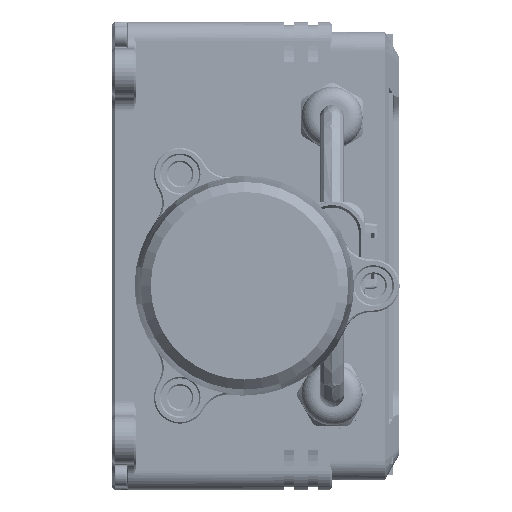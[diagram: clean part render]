
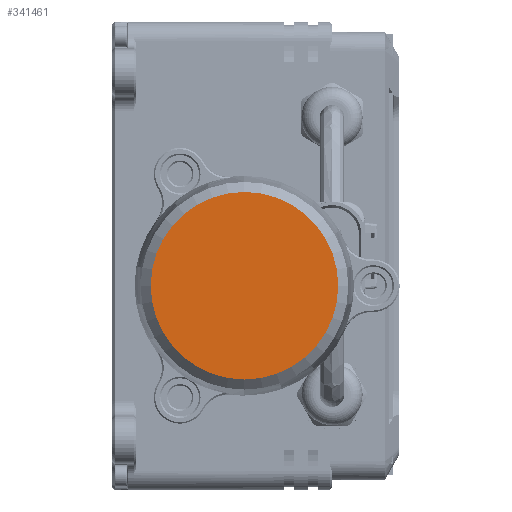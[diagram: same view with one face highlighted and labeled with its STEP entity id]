
A CAD part, left-side view. The second image highlights one B-rep face of the part: STEP entity #341461.
In plain terms, the highlighted planar face has unit normal (-1, 0, 0) as drawn and (0, 0, -1) by its records, which use the part's own axes.
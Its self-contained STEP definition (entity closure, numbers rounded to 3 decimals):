
#304966=CARTESIAN_POINT('',(-0.021,-0.021,
-20.7));
#304967=DIRECTION('',(0.,0.,1.));
#304968=DIRECTION('',(1.,0.,0.));
#304969=AXIS2_PLACEMENT_3D('',#304966,#304967,#304968);
#304971=CARTESIAN_POINT('',(-0.021,-0.021,
-20.7));
#304972=DIRECTION('',(0.,0.,1.));
#304973=DIRECTION('',(0.,1.,0.));
#304974=AXIS2_PLACEMENT_3D('',#304971,#304972,#304973);
#304976=CARTESIAN_POINT('',(-0.021,-0.021,
-20.7));
#304977=DIRECTION('',(0.,0.,1.));
#304978=DIRECTION('',(-1.,0.,0.));
#304979=AXIS2_PLACEMENT_3D('',#304976,#304977,#304978);
#304981=CARTESIAN_POINT('',(-0.021,-0.021,
-20.7));
#304982=DIRECTION('',(0.,0.,1.));
#304983=DIRECTION('',(0.,-1.,0.));
#304984=AXIS2_PLACEMENT_3D('',#304981,#304982,#304983);
#310164=CARTESIAN_POINT('',(-0.021,-19.658,
-20.7));
#310165=CARTESIAN_POINT('',(19.617,-0.021,
-20.7));
#310166=VERTEX_POINT('',#310164);
#310167=VERTEX_POINT('',#310165);
#310168=CARTESIAN_POINT('',(-19.658,-0.021,
-20.7));
#310169=VERTEX_POINT('',#310168);
#310170=CARTESIAN_POINT('',(-0.021,19.617,
-20.7));
#310171=VERTEX_POINT('',#310170);
#341448=CARTESIAN_POINT('',(-0.021,-0.021,
-20.7));
#341449=DIRECTION('',(0.,0.,1.));
#341450=DIRECTION('',(-1.,0.,0.));
#341451=AXIS2_PLACEMENT_3D('',#341448,#341449,#341450);
#341452=PLANE('',#341451);
#341454=ORIENTED_EDGE('',*,*,#341453,.T.);
#341456=ORIENTED_EDGE('',*,*,#341455,.T.);
#341457=ORIENTED_EDGE('',*,*,#341437,.T.);
#341458=ORIENTED_EDGE('',*,*,#341435,.T.);
#341459=EDGE_LOOP('',(#341454,#341456,#341457,#341458));
#341460=FACE_OUTER_BOUND('',#341459,.F.);
#341461=ADVANCED_FACE('',(#341460),#341452,.F.);
#304970=CIRCLE('',#304969,19.637);
#304975=CIRCLE('',#304974,19.637);
#304980=CIRCLE('',#304979,19.637);
#304985=CIRCLE('',#304984,19.637);
#341435=EDGE_CURVE('',#310166,#310167,#304985,.T.);
#341437=EDGE_CURVE('',#310169,#310166,#304980,.T.);
#341453=EDGE_CURVE('',#310167,#310171,#304970,.T.);
#341455=EDGE_CURVE('',#310171,#310169,#304975,.T.);
